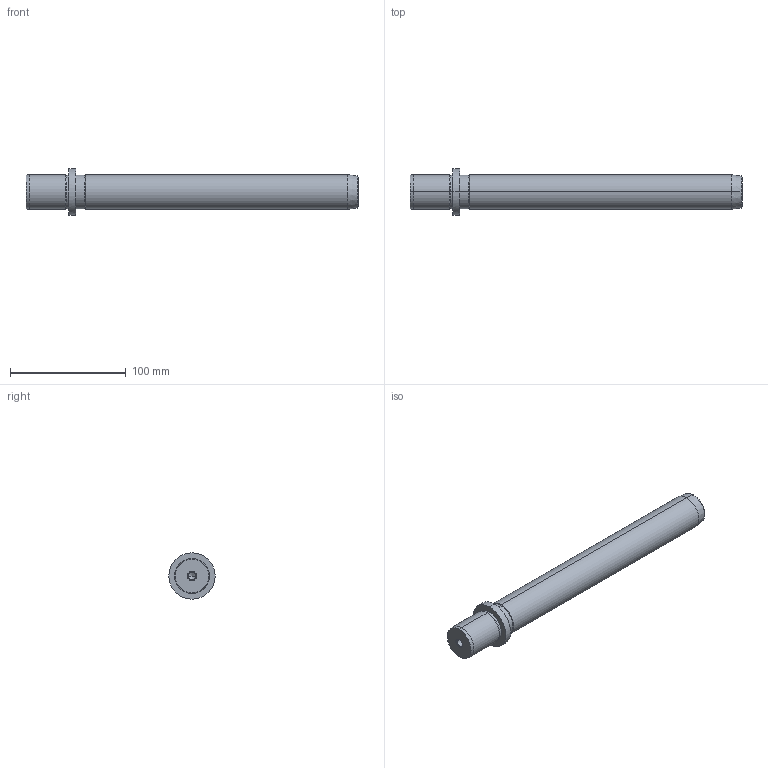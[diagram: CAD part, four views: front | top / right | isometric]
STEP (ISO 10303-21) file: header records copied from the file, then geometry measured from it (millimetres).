
FILE_DESCRIPTION(('CATIA V5 STEP Exchange'),'2;1');
FILE_NAME('C:\Users\Utente\Desktop\IO LAVORO\3D X SITO CF\X SITO\719\719-30x250.stp','2021-01-03T16:04:19+00:00',('none'),('none'),'CATIA Version 5 Release 20 GA (IN-10)','CATIA V5 STEP AP203','none');
FILE_SCHEMA(('CONFIG_CONTROL_DESIGN'));
Length unit declared in the file: millimetre
Products named in the file (1): 719-30x250
Bounding box: 287 x 40 x 40 mm (x, y, z)
Volume: 203358 mm3; surface area: 30630.1 mm2
Topology: 1 solids, 1 shells, 36 faces, 100 edges, 66 vertices
Faces by surface type: cone 16, cylinder 14, plane 4, torus 2
Entity records: 1267 total; most frequent: CARTESIAN_POINT 334, ORIENTED_EDGE 192, DIRECTION 159, EDGE_CURVE 96, AXIS2_PLACEMENT_3D 94, VERTEX_POINT 66, CIRCLE 57, EDGE_LOOP 40
